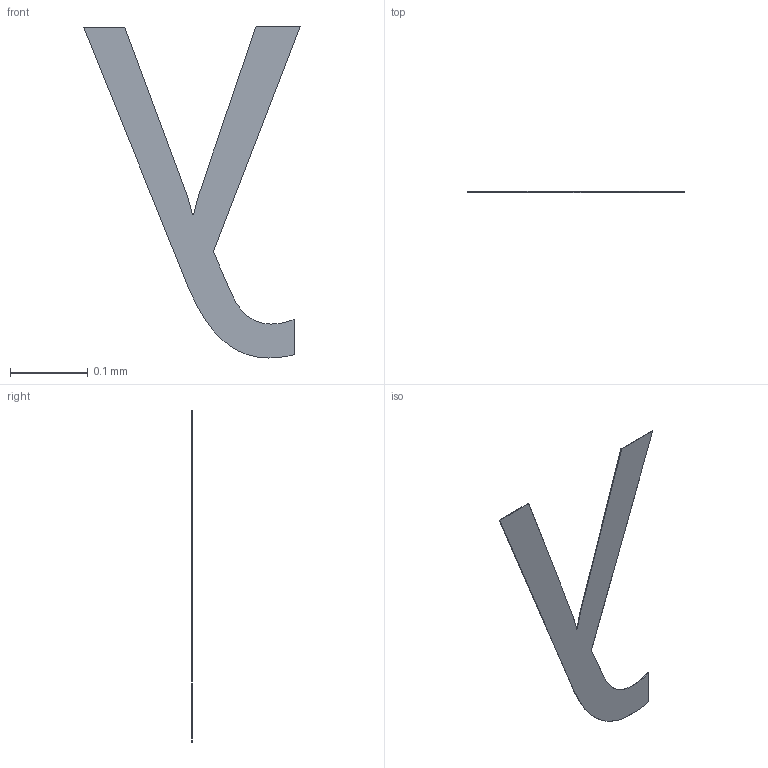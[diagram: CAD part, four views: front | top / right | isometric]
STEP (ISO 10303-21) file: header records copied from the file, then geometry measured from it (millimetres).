
FILE_DESCRIPTION(/* description */ ('STEP AP242 Edition 2','CAx-IF Rec.Pracs.---Representation and Presentation of Product Manufacturing Information (PMI)---4.0---2014-10-13','CAx-IF Rec.Pracs.---3D Tessellated Geometry---0.4---2014-09-14','2;1','CAx-IF Rec.Pracs.---User Defined Attributes---1.5---2016-08-15'),/* implementation_level */ '2;1');
FILE_NAME(/* name */ 'Assembly 1 - SW-TH_EC11E18244A5~SW-TH_EC11E18244A5-L11.7-W12.0-H24.5-P2.5-LS14.5~nxQB (4)',/* time_stamp */ '2026-04-02T09:55:29Z',/* author */ (''),/* organization */ (''),/* preprocessor_version */ 'ST-DEVELOPER v20',/* originating_system */ 'ONSHAPE BY PTC INC, 1.212',/* authorisation */ ' ');
FILE_SCHEMA (('AP242_MANAGED_MODEL_BASED_3D_ENGINEERING_MIM_LF { 1 0 10303 442 3 1 4 }'));
Length unit declared in the file: metre
Products named in the file (1): SW-TH_EC11E18244A5~SW-TH_EC11E18244A5-L11.7-W12.0-H24.5-P2.5-LS14.5~n
xQB
Bounding box: 0.28 x 0 x 0.43 mm (x, y, z)
Volume: 0 mm3; surface area: 0.1 mm2
Topology: 1 solids, 1 shells, 17 faces, 45 edges, 30 vertices
Faces by surface type: plane 12, bspline 5
Entity records: 691 total; most frequent: CARTESIAN_POINT 158, ORIENTED_EDGE 90, DIRECTION 61, EDGE_CURVE 45, LINE 35, VECTOR 35, VERTEX_POINT 30, PRESENTATION_STYLE_ASSIGNMENT 18
